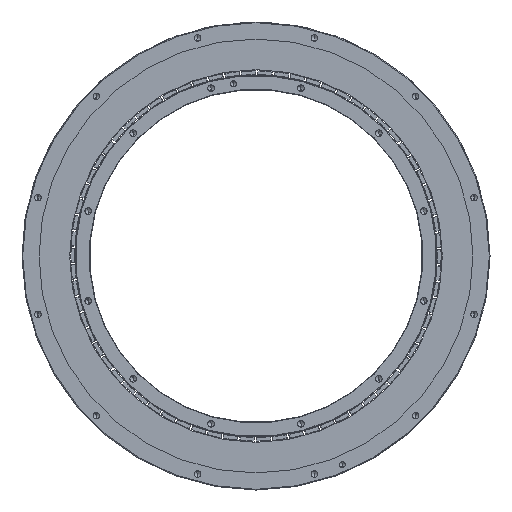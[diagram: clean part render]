
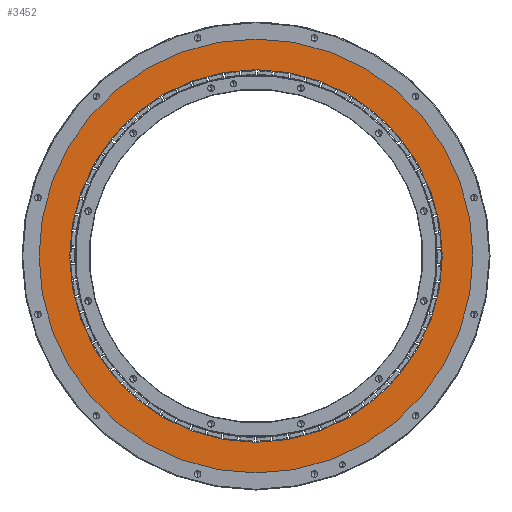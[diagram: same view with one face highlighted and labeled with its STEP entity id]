
A CAD part, front view. The second image highlights one B-rep face of the part: STEP entity #3452.
In plain terms, the highlighted planar face has unit normal (0, -1, 0).
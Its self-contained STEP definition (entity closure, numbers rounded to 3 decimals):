
#1792 = AXIS2_PLACEMENT_3D ( 'NONE', #25690, #12943, #30665 ) ;
#2324 = CARTESIAN_POINT ( 'NONE',  ( 0., -44., 0. ) ) ;
#2996 = AXIS2_PLACEMENT_3D ( 'NONE', #17335, #29829, #4435 ) ;
#3065 = VERTEX_POINT ( 'NONE', #18085 ) ;
#3452 = ADVANCED_FACE ( 'NONE', ( #6465, #24846 ), #4268, .T. ) ;
#4268 = PLANE ( 'NONE',  #2996 ) ;
#4435 = DIRECTION ( 'NONE',  ( 0., 0., -1. ) ) ;
#4851 = CARTESIAN_POINT ( 'NONE',  ( 0., -44., -224.905 ) ) ;
#5723 = ORIENTED_EDGE ( 'NONE', *, *, #29919, .F. ) ;
#5932 = CARTESIAN_POINT ( 'NONE',  ( 0., -44., 0. ) ) ;
#6465 = FACE_BOUND ( 'NONE', #7681, .T. ) ;
#7681 = EDGE_LOOP ( 'NONE', ( #5723, #24326 ) ) ;
#8771 = CARTESIAN_POINT ( 'NONE',  ( 0., -44., 193.1 ) ) ;
#9168 = CARTESIAN_POINT ( 'NONE',  ( 0., -44., -193.1 ) ) ;
#10698 = DIRECTION ( 'NONE',  ( 0., 0., -1. ) ) ;
#11710 = ORIENTED_EDGE ( 'NONE', *, *, #23485, .T. ) ;
#12943 = DIRECTION ( 'NONE',  ( 0., -1., 0. ) ) ;
#12960 = VERTEX_POINT ( 'NONE', #4851 ) ;
#12973 = EDGE_CURVE ( 'NONE', #14620, #25424, #17972, .T. ) ;
#13006 = DIRECTION ( 'NONE',  ( 0., 0., -1. ) ) ;
#14052 = DIRECTION ( 'NONE',  ( 0., -1., 0. ) ) ;
#14616 = EDGE_LOOP ( 'NONE', ( #11710, #28448 ) ) ;
#14620 = VERTEX_POINT ( 'NONE', #8771 ) ;
#16288 = DIRECTION ( 'NONE',  ( 0., -1., 0. ) ) ;
#16330 = EDGE_CURVE ( 'NONE', #3065, #12960, #16392, .T. ) ;
#16392 = CIRCLE ( 'NONE', #1792, 224.905 ) ;
#17335 = CARTESIAN_POINT ( 'NONE',  ( 0., -44., 0. ) ) ;
#17653 = AXIS2_PLACEMENT_3D ( 'NONE', #5932, #16288, #10698 ) ;
#17972 = CIRCLE ( 'NONE', #33038, 193.1 ) ;
#18085 = CARTESIAN_POINT ( 'NONE',  ( 0., -44., 224.905 ) ) ;
#22010 = CIRCLE ( 'NONE', #17653, 224.905 ) ;
#22426 = CIRCLE ( 'NONE', #33116, 193.1 ) ;
#23197 = DIRECTION ( 'NONE',  ( 0., -1., 0. ) ) ;
#23485 = EDGE_CURVE ( 'NONE', #12960, #3065, #22010, .T. ) ;
#24326 = ORIENTED_EDGE ( 'NONE', *, *, #12973, .F. ) ;
#24846 = FACE_OUTER_BOUND ( 'NONE', #14616, .T. ) ;
#25424 = VERTEX_POINT ( 'NONE', #9168 ) ;
#25690 = CARTESIAN_POINT ( 'NONE',  ( 0., -44., 0. ) ) ;
#28448 = ORIENTED_EDGE ( 'NONE', *, *, #16330, .T. ) ;
#29760 = DIRECTION ( 'NONE',  ( 0., 0., -1. ) ) ;
#29829 = DIRECTION ( 'NONE',  ( 0., -1., 0. ) ) ;
#29919 = EDGE_CURVE ( 'NONE', #25424, #14620, #22426, .T. ) ;
#30665 = DIRECTION ( 'NONE',  ( 0., 0., -1. ) ) ;
#31601 = CARTESIAN_POINT ( 'NONE',  ( 0., -44., 0. ) ) ;
#33038 = AXIS2_PLACEMENT_3D ( 'NONE', #2324, #23197, #13006 ) ;
#33116 = AXIS2_PLACEMENT_3D ( 'NONE', #31601, #14052, #29760 ) ;
